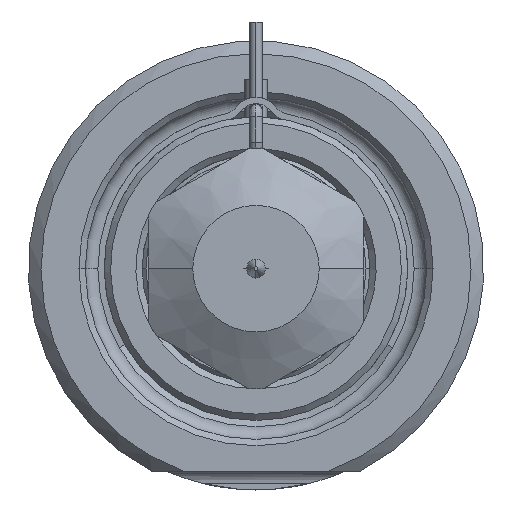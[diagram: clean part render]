
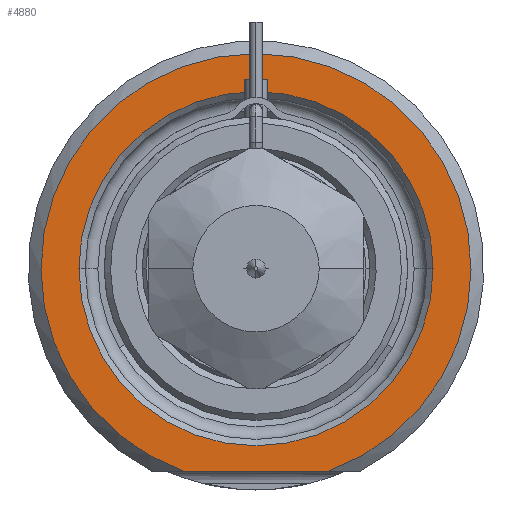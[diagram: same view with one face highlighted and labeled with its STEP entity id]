
A CAD part, front view. The second image highlights one B-rep face of the part: STEP entity #4880.
In plain terms, the highlighted planar face has unit normal (0, -1, 0).
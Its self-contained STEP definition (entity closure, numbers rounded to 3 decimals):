
#1267=CARTESIAN_POINT('',(0.,0.,0.));
#1268=DIRECTION('',(0.,-1.,0.));
#1269=DIRECTION('',(0.338,0.,-0.941));
#1270=AXIS2_PLACEMENT_3D('',#1267,#1268,#1269);
#1291=DIRECTION('',(1.,0.,0.));
#1292=VECTOR('',#1291,11.489);
#1293=CARTESIAN_POINT('',(-5.745,0.,-16.));
#1294=LINE('',#1293,#1292);
#1295=CARTESIAN_POINT('',(0.,0.,0.));
#1296=DIRECTION('',(0.,1.,0.));
#1297=DIRECTION('',(-1.,0.,0.));
#1298=AXIS2_PLACEMENT_3D('',#1295,#1296,#1297);
#1300=CARTESIAN_POINT('',(0.,0.,0.));
#1301=DIRECTION('',(0.,1.,0.));
#1302=DIRECTION('',(1.,0.,0.));
#1303=AXIS2_PLACEMENT_3D('',#1300,#1301,#1302);
#3058=CARTESIAN_POINT('',(-14.,0.,0.));
#3059=CARTESIAN_POINT('',(14.,0.,0.));
#3060=VERTEX_POINT('',#3058);
#3061=VERTEX_POINT('',#3059);
#3108=CARTESIAN_POINT('',(-5.745,0.,-16.));
#3109=CARTESIAN_POINT('',(5.745,0.,-16.));
#3110=VERTEX_POINT('',#3108);
#3111=VERTEX_POINT('',#3109);
#4865=CARTESIAN_POINT('',(0.,0.,0.));
#4866=DIRECTION('',(0.,-1.,0.));
#4867=DIRECTION('',(1.,0.,0.));
#4868=AXIS2_PLACEMENT_3D('',#4865,#4866,#4867);
#4869=PLANE('',#4868);
#4870=ORIENTED_EDGE('',*,*,#4797,.F.);
#4871=ORIENTED_EDGE('',*,*,#4857,.F.);
#4872=EDGE_LOOP('',(#4870,#4871));
#4873=FACE_OUTER_BOUND('',#4872,.F.);
#4875=ORIENTED_EDGE('',*,*,#4874,.F.);
#4877=ORIENTED_EDGE('',*,*,#4876,.F.);
#4878=EDGE_LOOP('',(#4875,#4877));
#4879=FACE_BOUND('',#4878,.F.);
#4880=ADVANCED_FACE('',(#4873,#4879),#4869,.T.);
#1271=CIRCLE('',#1270,17.);
#1299=CIRCLE('',#1298,14.);
#1304=CIRCLE('',#1303,14.);
#4797=EDGE_CURVE('',#3110,#3111,#1294,.T.);
#4857=EDGE_CURVE('',#3111,#3110,#1271,.T.);
#4874=EDGE_CURVE('',#3060,#3061,#1299,.T.);
#4876=EDGE_CURVE('',#3061,#3060,#1304,.T.);
